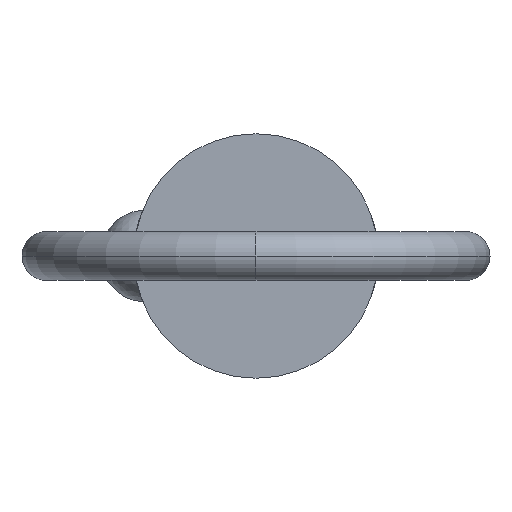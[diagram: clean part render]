
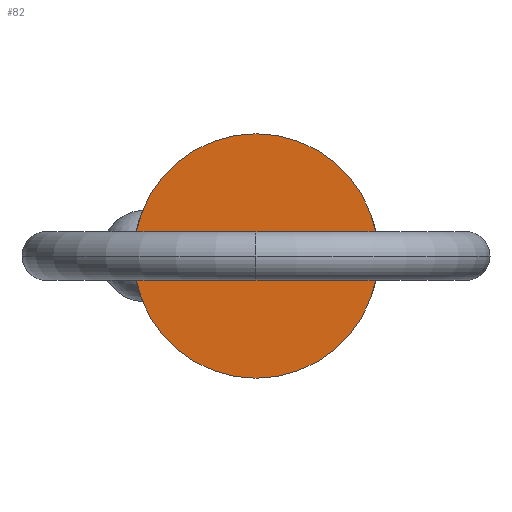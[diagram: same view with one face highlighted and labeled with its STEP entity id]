
A CAD part, left-side view. The second image highlights one B-rep face of the part: STEP entity #82.
In plain terms, the highlighted planar face has unit normal (-1, 0, 0).
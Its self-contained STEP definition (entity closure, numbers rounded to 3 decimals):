
#43 = DIRECTION ( 'NONE',  ( 1., 0., 0. ) ) ;
#73 = AXIS2_PLACEMENT_3D ( 'NONE', #185, #43, #548 ) ;
#82 = ADVANCED_FACE ( 'NONE', ( #644 ), #805, .T. ) ;
#102 = EDGE_CURVE ( 'NONE', #129, #671, #816, .T. ) ;
#129 = VERTEX_POINT ( 'NONE', #809 ) ;
#171 = CARTESIAN_POINT ( 'NONE',  ( 0., 0., 0. ) ) ;
#185 = CARTESIAN_POINT ( 'NONE',  ( 0., 0., 0. ) ) ;
#232 = EDGE_LOOP ( 'NONE', ( #266, #343 ) ) ;
#266 = ORIENTED_EDGE ( 'NONE', *, *, #631, .F. ) ;
#280 = CARTESIAN_POINT ( 'NONE',  ( 0., 0., -11.115 ) ) ;
#310 = DIRECTION ( 'NONE',  ( 0., 0., -1. ) ) ;
#343 = ORIENTED_EDGE ( 'NONE', *, *, #102, .F. ) ;
#446 = AXIS2_PLACEMENT_3D ( 'NONE', #673, #720, #731 ) ;
#476 = AXIS2_PLACEMENT_3D ( 'NONE', #171, #524, #310 ) ;
#524 = DIRECTION ( 'NONE',  ( 1., 0., 0. ) ) ;
#548 = DIRECTION ( 'NONE',  ( 0., 0., -1. ) ) ;
#631 = EDGE_CURVE ( 'NONE', #671, #129, #719, .T. ) ;
#644 = FACE_OUTER_BOUND ( 'NONE', #232, .T. ) ;
#671 = VERTEX_POINT ( 'NONE', #280 ) ;
#673 = CARTESIAN_POINT ( 'NONE',  ( 0., 0., 0. ) ) ;
#719 = CIRCLE ( 'NONE', #73, 11.115 ) ;
#720 = DIRECTION ( 'NONE',  ( -1., 0., 0. ) ) ;
#731 = DIRECTION ( 'NONE',  ( 0., 0., 1. ) ) ;
#805 = PLANE ( 'NONE',  #446 ) ;
#809 = CARTESIAN_POINT ( 'NONE',  ( 0., 0., 11.115 ) ) ;
#816 = CIRCLE ( 'NONE', #476, 11.115 ) ;
